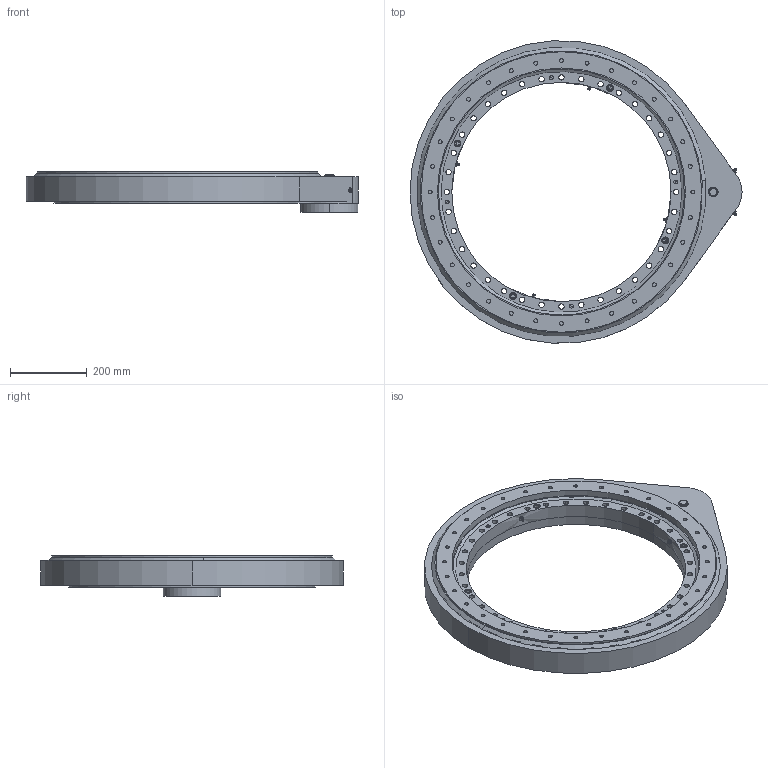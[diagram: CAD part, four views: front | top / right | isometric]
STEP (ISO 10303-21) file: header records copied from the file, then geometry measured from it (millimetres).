
FILE_DESCRIPTION (( 'STEP AP214' ), '1' );
FILE_NAME ('10641.STEP', '2023-03-16T07:01:13', ( '' ), ( '' ), 'SwSTEP 2.0', 'SolidWorks 2021', '' );
FILE_SCHEMA (( 'AUTOMOTIVE_DESIGN' ));
Length unit declared in the file: millimetre
Products named in the file (1): 10641
Bounding box: 866 x 788.39 x 106.5 mm (x, y, z)
Surface area: 1204428.9 mm2 (no closed solid volume)
Topology: 0 solids, 44 shells, 564 faces, 1687 edges, 1144 vertices
Faces by surface type: cylinder 306, plane 152, torus 52, cone 38, sphere 16
Entity records: 26156 total; most frequent: DIRECTION 3757, CARTESIAN_POINT 3693, ORIENTED_EDGE 2870, EDGE_CURVE 1679, AXIS2_PLACEMENT_3D 1524, VERTEX_POINT 1144, CIRCLE 959, EDGE_LOOP 851
